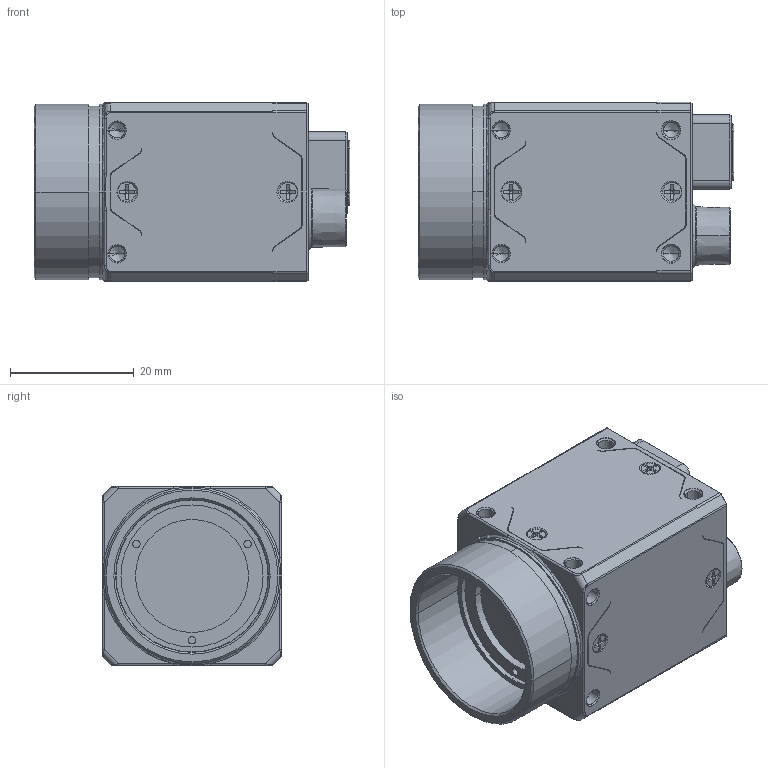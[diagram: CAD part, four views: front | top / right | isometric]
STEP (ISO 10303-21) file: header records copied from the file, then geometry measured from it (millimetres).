
FILE_DESCRIPTION((''),'2;1');
FILE_NAME('MV-CT050-MINI-C_ASM','2026-06-11T19:43:36',('wangyijun6'),(''),'CREO PARAMETRIC BY PTC INC, 2020044','CREO PARAMETRIC BY PTC INC, 2020044','');
FILE_SCHEMA(('CONFIG_CONTROL_DESIGN'));
Products named in the file (10): MV-CT050-MINI-C_ASM_1_1; MV-CT050-MINI-C_ASM_1_2; MV-CT050-MINI-C_ASM_1_3; MV-CT050-MINI-C_ASM_1_4; MV-CT050-MINI-C_ASM_1_5; MV-CT050-MINI-C_ASM_1_6; MV-CT050-MINI-C_ASM_1_7; MV-CT050-MINI-C_ASM_1_8; MV-CT050-MINI-C_ASM_1_ASM; MV-CT050-MINI-C_ASM
Assembly tree (9 placements, depth 3):
  MV-CT050-MINI-C_ASM
    MV-CT050-MINI-C_ASM_1_ASM
      MV-CT050-MINI-C_ASM_1_1
      MV-CT050-MINI-C_ASM_1_2
      MV-CT050-MINI-C_ASM_1_3
      MV-CT050-MINI-C_ASM_1_4
      MV-CT050-MINI-C_ASM_1_5
      MV-CT050-MINI-C_ASM_1_6
      MV-CT050-MINI-C_ASM_1_7
      MV-CT050-MINI-C_ASM_1_8
Bounding box: 51.13 x 29 x 29 mm (x, y, z)
Volume: 24547.2 mm3; surface area: 21149.2 mm2
Topology: 8 solids, 52 shells, 2558 faces, 7039 edges, 4562 vertices
Faces by surface type: plane 1400, cylinder 733, cone 280, torus 82, bspline 45, sphere 16, extrusion 2
Entity records: 88859 total; most frequent: CARTESIAN_POINT 23260, ORIENTED_EDGE 13777, DIRECTION 13579, EDGE_CURVE 6967, AXIS2_PLACEMENT_3D 4610, VERTEX_POINT 4562, VECTOR 4359, LINE 4357
